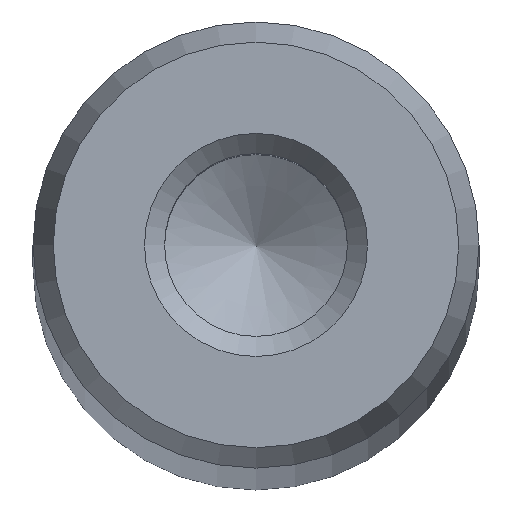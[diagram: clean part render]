
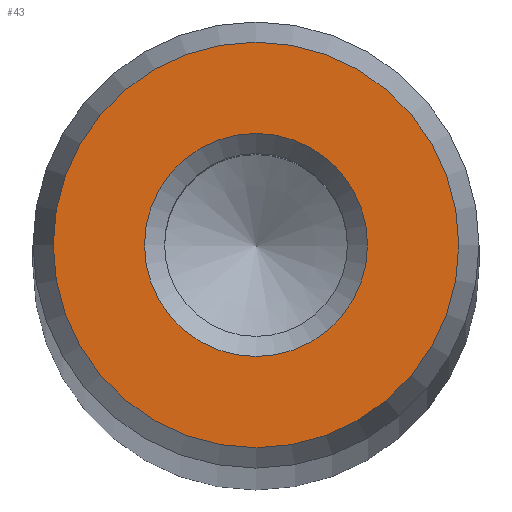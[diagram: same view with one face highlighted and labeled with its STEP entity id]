
A CAD part, top view. The second image highlights one B-rep face of the part: STEP entity #43.
In plain terms, the highlighted planar face has unit normal (0, 0, 1).
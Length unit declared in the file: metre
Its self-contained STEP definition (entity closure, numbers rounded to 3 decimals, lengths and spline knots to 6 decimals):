
#43 = ADVANCED_FACE( '', ( #92, #93 ), #94, .T. );
#92 = FACE_OUTER_BOUND( '', #151, .T. );
#93 = FACE_BOUND( '', #152, .T. );
#94 = PLANE( '', #153 );
#151 = EDGE_LOOP( '', ( #210 ) );
#152 = EDGE_LOOP( '', ( #211 ) );
#153 = AXIS2_PLACEMENT_3D( '', #212, #213, #214 );
#210 = ORIENTED_EDGE( '', *, *, #278, .T. );
#211 = ORIENTED_EDGE( '', *, *, #279, .T. );
#212 = CARTESIAN_POINT( '', ( 0., 0., 0.339 ) );
#213 = DIRECTION( '', ( 0., 0., 1. ) );
#214 = DIRECTION( '', ( 1., 0., 0. ) );
#278 = EDGE_CURVE( '', #310, #310, #311, .T. );
#279 = EDGE_CURVE( '', #312, #312, #313, .T. );
#310 = VERTEX_POINT( '', #347 );
#311 = CIRCLE( '', #348, 0.005454 );
#312 = VERTEX_POINT( '', #349 );
#313 = CIRCLE( '', #350, 0.003 );
#347 = CARTESIAN_POINT( '', ( 0.005454, 0., 0.339 ) );
#348 = AXIS2_PLACEMENT_3D( '', #385, #386, #387 );
#349 = CARTESIAN_POINT( '', ( 0.003, 0., 0.339 ) );
#350 = AXIS2_PLACEMENT_3D( '', #388, #389, #390 );
#385 = CARTESIAN_POINT( '', ( 0., 0., 0.339 ) );
#386 = DIRECTION( '', ( 0., 0., 1. ) );
#387 = DIRECTION( '', ( 1., 0., 0. ) );
#388 = CARTESIAN_POINT( '', ( 0., 0., 0.339 ) );
#389 = DIRECTION( '', ( 0., 0., -1. ) );
#390 = DIRECTION( '', ( 1., 0., 0. ) );
